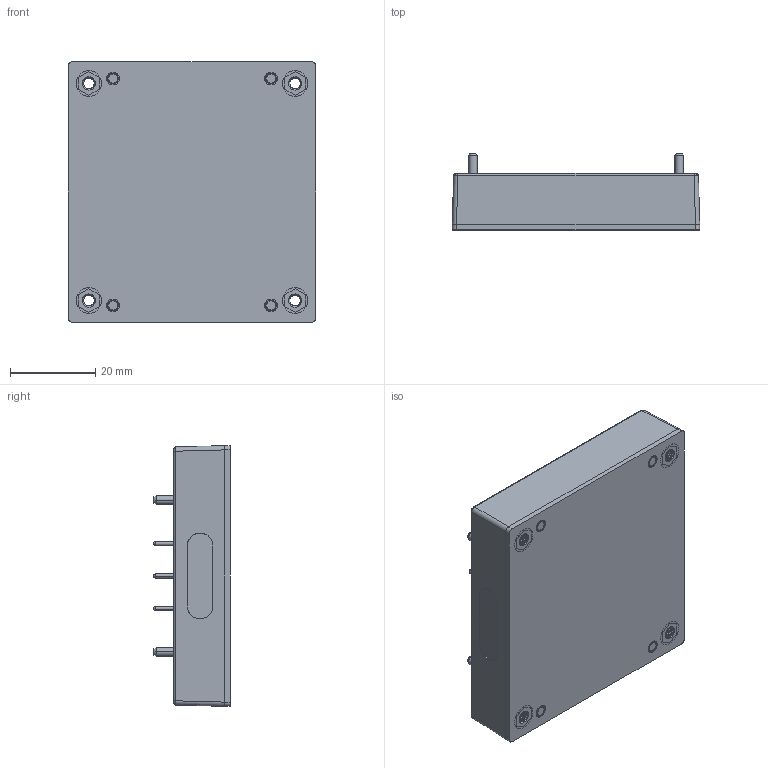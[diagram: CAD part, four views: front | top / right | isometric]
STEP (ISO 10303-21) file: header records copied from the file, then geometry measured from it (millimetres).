
FILE_DESCRIPTION (( 'STEP AP214' ), '1' );
FILE_NAME ('CHM150.STEP', '2026-03-20T05:32:49', ( 'cincon' ), ( '' ), 'SwSTEP 2.0', 'SolidWorks 2020', '' );
FILE_SCHEMA (( 'AUTOMOTIVE_DESIGN' ));
Length unit declared in the file: millimetre
Products named in the file (1): CHM150
Bounding box: 57.9 x 17.8 x 61 mm (x, y, z)
Volume: 45562.9 mm3; surface area: 11205.9 mm2
Topology: 1 solids, 12 shells, 1358 faces, 3649 edges, 2404 vertices
Faces by surface type: plane 599, cylinder 538, bspline 155, cone 66
Entity records: 73385 total; most frequent: CARTESIAN_POINT 25406, ORIENTED_EDGE 7298, DIRECTION 6467, EDGE_CURVE 3649, VERTEX_POINT 2404, AXIS2_PLACEMENT_3D 2191, VECTOR 2085, LINE 2085
